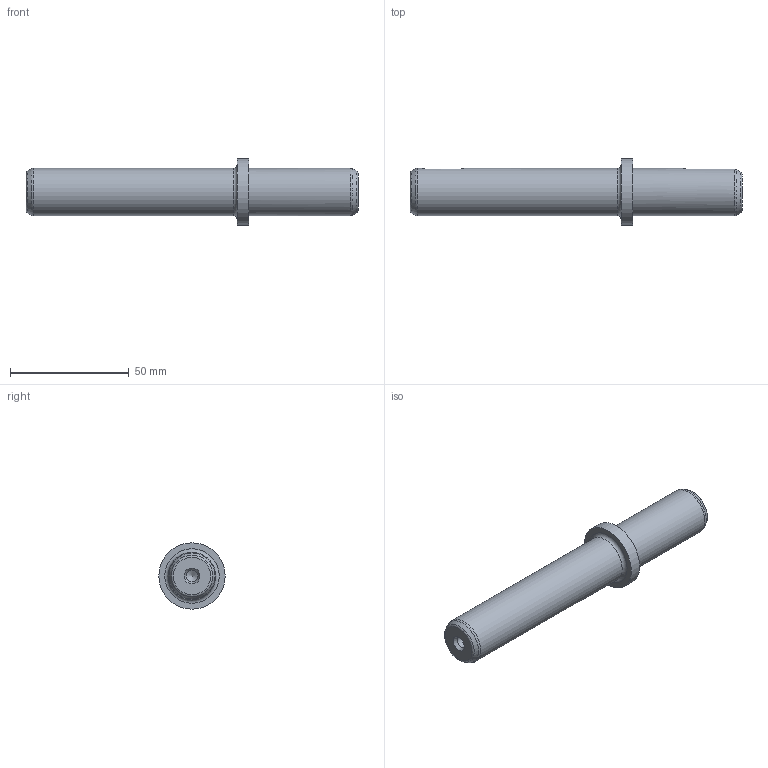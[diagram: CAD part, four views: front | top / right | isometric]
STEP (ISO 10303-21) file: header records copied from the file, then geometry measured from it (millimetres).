
FILE_DESCRIPTION(/* description */ (''),/* implementation_level */ '2;1');
FILE_NAME(/* name */ '',/* time_stamp */ '2026-01-09T11:21:05+09:00',/* author */ ('jhkim'),/* organization */ (''),/* preprocessor_version */ 'ST-DEVELOPER v20.1',/* originating_system */ 'Autodesk Inventor 2026',/* authorisation */ '');
FILE_SCHEMA (('AUTOMOTIVE_DESIGN { 1 0 10303 214 3 1 1 }'));
Length unit declared in the file: millimetre
Products named in the file (1): 구동축
Bounding box: 140 x 28 x 28 mm (x, y, z)
Volume: 44154.2 mm3; surface area: 10466 mm2
Topology: 1 solids, 1 shells, 29 faces, 71 edges, 47 vertices
Faces by surface type: plane 10, cylinder 8, cone 6, torus 5
Full cylindrical faces by diameter (mm): 2 x1, 4.917 x1, 20 x2, 28 x1
Entity records: 956 total; most frequent: CARTESIAN_POINT 228, DIRECTION 147, ORIENTED_EDGE 138, EDGE_CURVE 69, AXIS2_PLACEMENT_3D 60, VERTEX_POINT 47, EDGE_LOOP 34, CIRCLE 30
